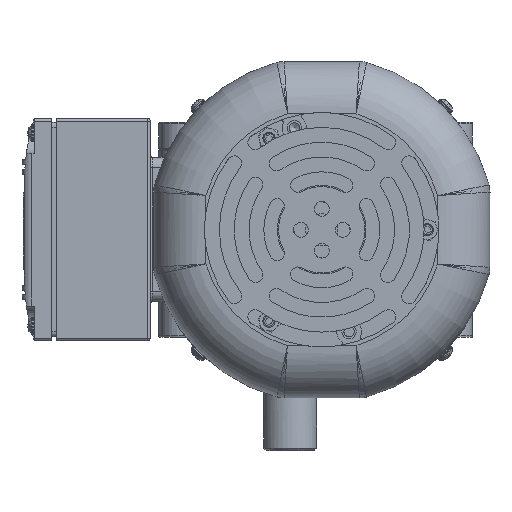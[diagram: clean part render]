
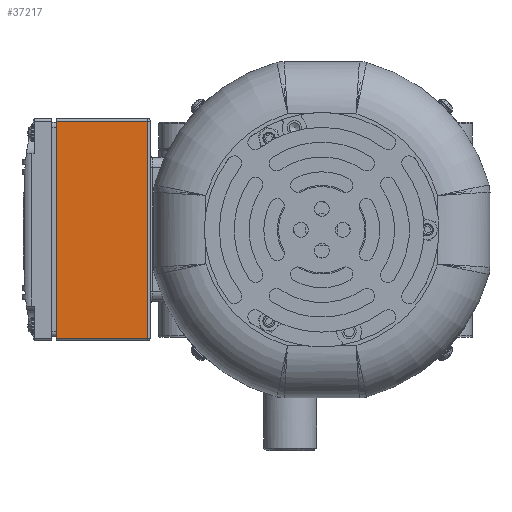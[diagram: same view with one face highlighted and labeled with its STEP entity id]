
A CAD part, left-side view. The second image highlights one B-rep face of the part: STEP entity #37217.
In plain terms, the highlighted planar face has unit normal (-1, 0, 0).
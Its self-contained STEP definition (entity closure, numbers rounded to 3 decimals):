
#3133=PLANE('',#39909);
#4345=FACE_OUTER_BOUND('',#6566,.T.);
#6566=EDGE_LOOP('',(#27839,#27840,#27841,#27842));
#9211=LINE('',#59522,#11991);
#9212=LINE('',#59524,#11992);
#9213=LINE('',#59526,#11993);
#9214=LINE('',#59527,#11994);
#11991=VECTOR('',#46020,10.);
#11992=VECTOR('',#46021,10.);
#11993=VECTOR('',#46022,10.);
#11994=VECTOR('',#46023,10.);
#17155=VERTEX_POINT('',#59520);
#17156=VERTEX_POINT('',#59521);
#17157=VERTEX_POINT('',#59523);
#17158=VERTEX_POINT('',#59525);
#21096=EDGE_CURVE('',#17155,#17156,#9211,.T.);
#21097=EDGE_CURVE('',#17157,#17155,#9212,.T.);
#21098=EDGE_CURVE('',#17157,#17158,#9213,.T.);
#21099=EDGE_CURVE('',#17156,#17158,#9214,.T.);
#27839=ORIENTED_EDGE('',*,*,#21096,.F.);
#27840=ORIENTED_EDGE('',*,*,#21097,.F.);
#27841=ORIENTED_EDGE('',*,*,#21098,.T.);
#27842=ORIENTED_EDGE('',*,*,#21099,.F.);
#37217=ADVANCED_FACE('',(#4345),#3133,.T.);
#39909=AXIS2_PLACEMENT_3D('',#59519,#46018,#46019);
#46018=DIRECTION('center_axis',(-1.,0.,0.));
#46019=DIRECTION('ref_axis',(0.,1.,0.));
#46020=DIRECTION('',(0.,0.,-1.));
#46021=DIRECTION('',(0.,-1.,0.));
#46022=DIRECTION('',(0.,0.,-1.));
#46023=DIRECTION('',(0.,1.,0.));
#59519=CARTESIAN_POINT('Origin',(-239.,56.5,45.065));
#59520=CARTESIAN_POINT('',(-239.,57.5,44.065));
#59521=CARTESIAN_POINT('',(-239.,57.5,-43.935));
#59522=CARTESIAN_POINT('',(-239.,57.5,22.565));
#59523=CARTESIAN_POINT('',(-239.,94.5,44.065));
#59524=CARTESIAN_POINT('',(-239.,56.5,44.065));
#59525=CARTESIAN_POINT('',(-239.,94.5,-43.935));
#59526=CARTESIAN_POINT('',(-239.,94.5,-44.935));
#59527=CARTESIAN_POINT('',(-239.,56.5,-43.935));
